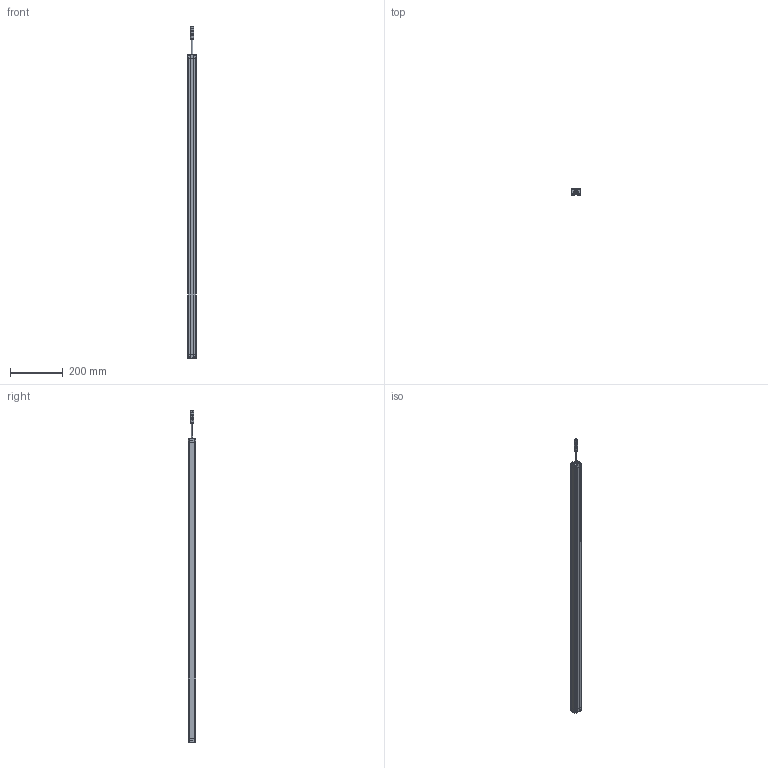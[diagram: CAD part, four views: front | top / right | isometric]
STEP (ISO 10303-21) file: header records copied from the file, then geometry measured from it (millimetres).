
FILE_DESCRIPTION((''),'2;1');
FILE_NAME('SMT1-CGQ_ASM','2025-08-08T08:38:43',('Administrator'),(''),'CREO PARAMETRIC BY PTC INC, 2016510','CREO PARAMETRIC BY PTC INC, 2016510','');
FILE_SCHEMA(('CONFIG_CONTROL_DESIGN'));
Length unit declared in the file: millimetre
Products named in the file (7): SMT1-XINGCAI-V1; SMT1-SDG-V1; SMT1-XDG-V1; M12-CHATOU; ST3X18; CT4-LVGUANGBAN; SMT1-CGQ_ASM
Assembly tree (13 placements, depth 2):
  SMT1-CGQ_ASM
    SMT1-XINGCAI-V1
    SMT1-SDG-V1
    SMT1-XDG-V1
    M12-CHATOU
    ST3X18  x8
    CT4-LVGUANGBAN
Bounding box: 33 x 28.02 x 1259.5 mm (x, y, z)
Volume: 890776.4 mm3; surface area: 286592.3 mm2
Topology: 13 solids, 13 shells, 712 faces, 1868 edges, 1200 vertices
Faces by surface type: plane 382, cylinder 184, extrusion 86, sphere 32, cone 20, bspline 8
Entity records: 18128 total; most frequent: CARTESIAN_POINT 4347, ORIENTED_EDGE 2916, DIRECTION 2580, EDGE_CURVE 1458, VECTOR 1036, VERTEX_POINT 955, LINE 950, AXIS2_PLACEMENT_3D 772
